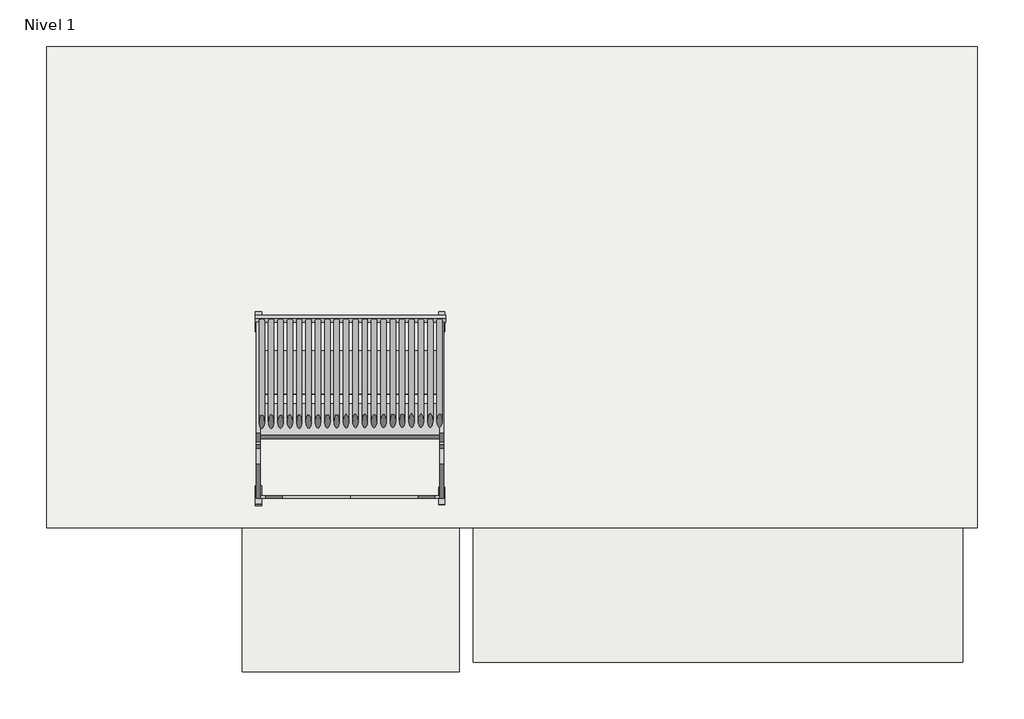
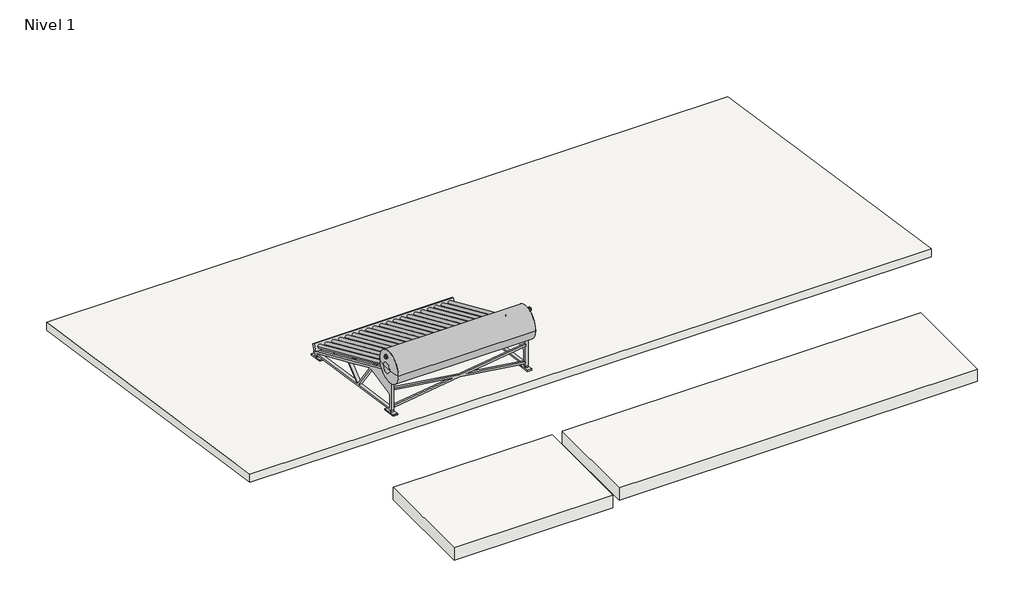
# One storey: 3 roofs, 2 coverings, 1 proxy.
"""IFC4 building model written with IfcOpenShell, lengths in millimetres."""

from ifc_helpers import new_model, si_unit, frame, origin, place, context, project, spatial, polyline, outline, extrude, faceted_brep, transform, mapped, element, save
from components import mechanical_equipment_34cca83e

model = new_model("IFC4")

# Units and contexts
model_context = context("Model", 3, world=origin())
ifc_project = project(units=[si_unit("LENGTHUNIT", "METRE", prefix="MILLI")], contexts=[model_context])

# Site, building, storey
site = spatial("IfcSite", under=ifc_project)
building = spatial("IfcBuilding", under=site)
storey = spatial("IfcBuildingStorey", under=building, Name="Nivel 1", Elevation=2700.0)

# Proxy
placement = place(None, origin())
mechanical_equipment_shape = mechanical_equipment_34cca83e(model_context)
element("IfcBuildingElementProxy", 1, Name="calentador solar techo inclinado : calentador solar techo inclinado", ObjectType="calentador solar techo inclinado : calentador solar techo inclinado", at=placement, inside=storey, context=model_context, shape_type="MappedRepresentation", body=[
    mapped(mechanical_equipment_shape, transform((-5756.0136856, -1469.5216433, 3280.8822513), x_axis=(-1.0, 0.0, 0.0), y_axis=(0.0, -0.9999999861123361, 0.0001666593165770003), z_axis=(0.0, 0.0001666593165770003, 0.9999999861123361))),
])

# Coverings
element("IfcCovering", 2, ObjectType="1282-Aplicado de yeso", at=placement, inside=storey, context=model_context, shape_type="SweptSolid", body=[
    extrude(outline(polyline([(-1662.4808047, 3448.2438615), (2538.0325688, 2818.1668554), (2538.0325688, 2797.943107), (-1662.4808047, 3428.0201131), (-1662.4808047, 3448.2438615)])), frame((-8840.7183643, 0.0, 0.0), z_axis=(1.0, 0.0, 0.0), x_axis=(0.0, 1.0, 0.0)), (0.0, 0.0, 1.0), 9640.0),
])
element("IfcCovering", 3, ObjectType="1282-Aplicado de yeso", at=placement, inside=storey, context=model_context, shape_type="Brep", body=[
    faceted_brep([(798.414529, -1679.5487, 3450.7563615), (798.414529, 2537.7146735, 2818.1668554), (-2388.7184884, 2537.7146735, 2818.1668554), (-2388.7184884, -859.4721748, 3327.7448827), (-8841.585471, -859.4721748, 3327.7448827), (-8841.585471, -1679.5487, 3450.7563615), (798.414529, -1679.5487, 3430.5326131), (-8841.585471, -1679.5487, 3430.5326131), (-8841.585471, -859.4721748, 3307.5211343), (-2388.7184884, -859.4721748, 3307.5211343), (-2388.7184884, 2537.7146735, 2797.943107), (798.414529, 2537.7146735, 2797.943107)], [[[0, 1, 2, 3, 4, 5]], [[6, 7, 8, 9, 10, 11]], [[1, 0, 6, 11]], [[2, 1, 11, 10]], [[5, 4, 8, 7]], [[0, 5, 7, 6]], [[3, 2, 10, 9]], [[4, 3, 9, 8]]]),
])

# Roofs
element("IfcRoof", 4, ObjectType="PC-NW-101", at=placement, inside=storey, context=model_context, shape_type="Brep", body=[
    faceted_brep([(-8995.585471, 3304.1020792, 2699.183615), (939.414529, 3304.1020792, 2699.183615), (939.414529, -1832.0487, 3469.6062319), (784.414529, -1832.0487, 3469.6062319), (-7053.5136856, -1832.0487, 3469.6062319), (-8995.585471, -1832.0487, 3469.6062319), (939.414529, 3304.1020792, 2823.5596678), (-8995.585471, 3304.1020792, 2823.5596678), (-8995.585471, -1832.0487, 3593.9822847), (939.414529, -1832.0487, 3593.9822847)], [[[0, 1, 2, 3, 4, 5]], [[6, 7, 8, 9]], [[7, 6, 1, 0]], [[6, 9, 2, 1]], [[9, 8, 5, 4, 3, 2]], [[8, 7, 0, 5]]]),
])
element("IfcRoof", 5, ObjectType="PC-NW-102", at=placement, inside=storey, context=model_context, shape_type="SweptSolid", body=[
    extrude(outline(polyline([(-6906.0136856, -3370.7853265), (-6906.0136856, -1832.0487), (-4591.0136856, -1832.0487), (-4591.0136856, -3370.7853265), (-6906.0136856, -3370.7853265)])), frame((0.0, 0.0, 2470.0), z_axis=(0.0, 0.0, 1.0), x_axis=(1.0, 0.0, 0.0)), (0.0, 0.0, 1.0), 189.0),
])
element("IfcRoof", 6, ObjectType="PC-NW-102", at=placement, inside=storey, context=model_context, shape_type="Brep", body=[
    faceted_brep([(784.414529, -3265.7853265, 2470.0), (-4439.0136856, -3265.7853265, 2470.0), (-4439.0136856, -1832.0487, 2470.0), (784.414529, -1832.0487, 2470.0), (-4439.0136856, -3265.7853265, 2659.0), (-3548.0136856, -3265.7853265, 2659.0), (-3395.5136856, -3265.7853265, 2659.0), (784.414529, -3265.7853265, 2659.0), (784.414529, -1832.0487, 2659.0), (-4439.0136856, -1832.0487, 2659.0)], [[[0, 1, 2, 3]], [[4, 5, 6, 7, 8, 9]], [[7, 6, 5, 4, 1, 0]], [[4, 9, 2, 1]], [[9, 8, 3, 2]], [[8, 7, 0, 3]]]),
])

save(model, "model.ifc")
